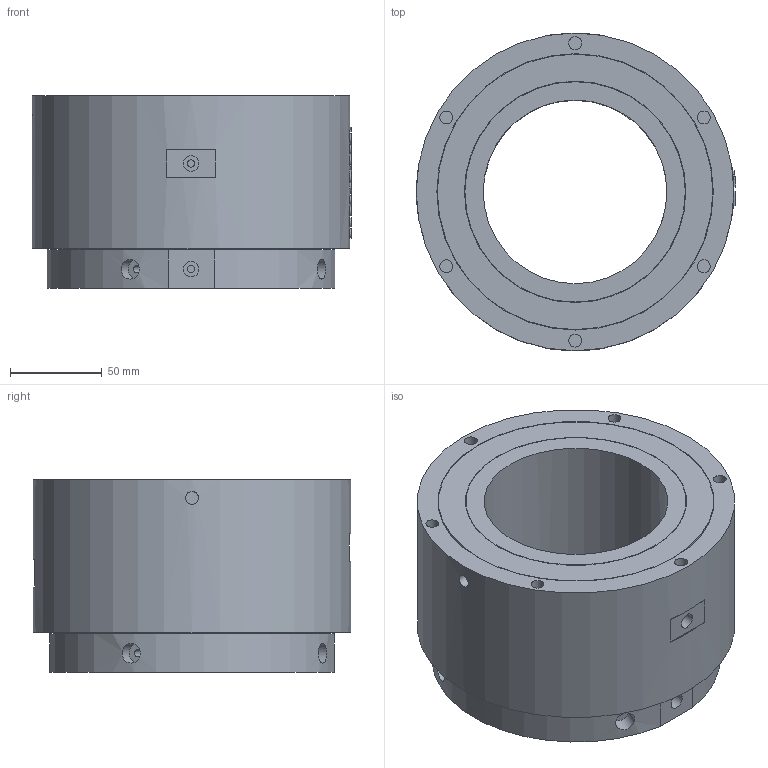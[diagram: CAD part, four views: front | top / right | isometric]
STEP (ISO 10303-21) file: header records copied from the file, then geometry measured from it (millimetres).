
FILE_DESCRIPTION(/* description */ (''),/* implementation_level */ '2;1');
FILE_NAME(/* name */ 'HQ0201D100.stp',/* time_stamp */ '2024-07-01T11:54:36+08:00',/* author */ (''),/* organization */ (''),/* preprocessor_version */ 'ST-DEVELOPER v16.7',/* originating_system */ 'SIEMENS PLM Software NX 12.0',/* authorisation */ '');
FILE_SCHEMA (('AUTOMOTIVE_DESIGN { 1 0 10303 214 3 1 1 1 }'));
Length unit declared in the file: millimetre
Products named in the file (1): 86130A48DBE8x8ze
Bounding box: 174 x 173 x 105 mm (x, y, z)
Volume: 1535070.3 mm3; surface area: 138445.7 mm2
Topology: 1 solids, 1 shells, 398 faces, 972 edges, 649 vertices
Faces by surface type: plane 161, extrusion 158, cylinder 52, bspline 27
Full cylindrical faces by diameter (mm): 4 x6, 4.2 x6, 7 x12, 8.5 x4, 10.875 x4, 100 x1, 120 x1, 120.5 x1, 141 x1, 150 x1, 150.5 x1, 173 x1
Entity records: 17443 total; most frequent: CARTESIAN_POINT 8910, ORIENTED_EDGE 1844, DIRECTION 1258, EDGE_CURVE 922, VERTEX_POINT 644, B_SPLINE_CURVE_WITH_KNOTS 551, VECTOR 544, EDGE_LOOP 526
